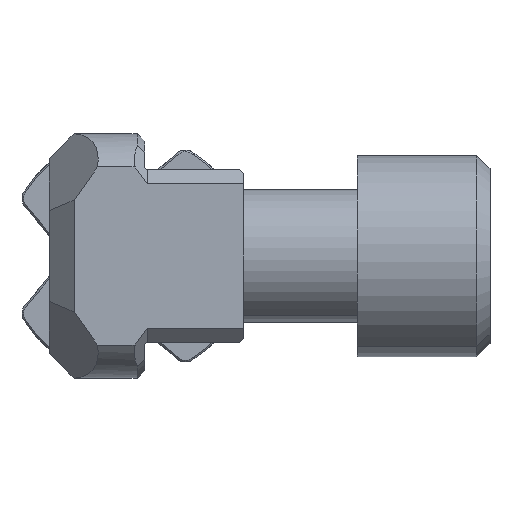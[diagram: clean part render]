
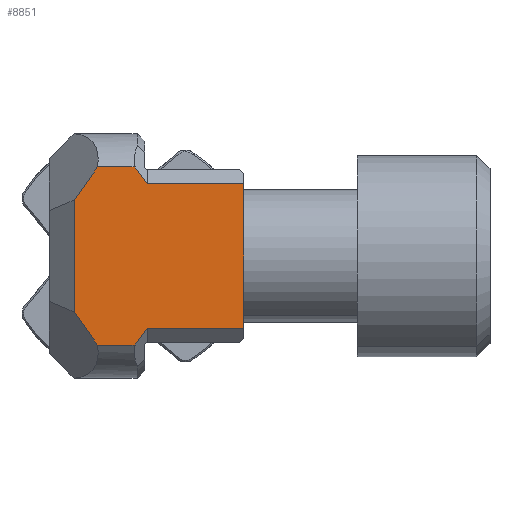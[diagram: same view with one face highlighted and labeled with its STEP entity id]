
A CAD part, front view. The second image highlights one B-rep face of the part: STEP entity #8851.
In plain terms, the highlighted planar face has unit normal (0, -1, 0).
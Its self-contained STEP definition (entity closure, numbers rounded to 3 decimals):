
#63 = CARTESIAN_POINT ( 'NONE',  ( -5.67, 0., -10.745 ) ) ;
#351 = ORIENTED_EDGE ( 'NONE', *, *, #13432, .F. ) ;
#382 = DIRECTION ( 'NONE',  ( 0.577, 0., -0.816 ) ) ;
#568 = DIRECTION ( 'NONE',  ( 0.577, 0., 0.816 ) ) ;
#634 = VECTOR ( 'NONE', #7683, 1000. ) ;
#787 = VERTEX_POINT ( 'NONE', #5525 ) ;
#1362 = EDGE_CURVE ( 'NONE', #15745, #8325, #9780, .T. ) ;
#1699 = DIRECTION ( 'NONE',  ( 0., 0., 1. ) ) ;
#1803 = CARTESIAN_POINT ( 'NONE',  ( -8.5, 0., -10.7 ) ) ;
#2336 = CARTESIAN_POINT ( 'NONE',  ( 0.3, 0., -8.7 ) ) ;
#2354 = DIRECTION ( 'NONE',  ( -1., 0., 0. ) ) ;
#3033 = CARTESIAN_POINT ( 'NONE',  ( 12., 0., 8.7 ) ) ;
#3056 = ORIENTED_EDGE ( 'NONE', *, *, #18273, .F. ) ;
#3454 = ORIENTED_EDGE ( 'NONE', *, *, #7697, .F. ) ;
#3564 = EDGE_LOOP ( 'NONE', ( #3056, #17486, #9317, #3454, #11464, #10012, #9542, #351, #14204, #14053 ) ) ;
#3605 = DIRECTION ( 'NONE',  ( -1., 0., 0. ) ) ;
#3820 = LINE ( 'NONE', #10150, #15825 ) ;
#4193 = FACE_OUTER_BOUND ( 'NONE', #3564, .T. ) ;
#4388 = PLANE ( 'NONE',  #19550 ) ;
#4895 = LINE ( 'NONE', #17391, #9037 ) ;
#5525 = CARTESIAN_POINT ( 'NONE',  ( 0.3, 0., 8.7 ) ) ;
#6046 = VERTEX_POINT ( 'NONE', #14889 ) ;
#6242 = VECTOR ( 'NONE', #17535, 1000. ) ;
#6246 = CARTESIAN_POINT ( 'NONE',  ( 12., 0., -10.5 ) ) ;
#6912 = LINE ( 'NONE', #10234, #14239 ) ;
#7683 = DIRECTION ( 'NONE',  ( 1., 0., 0. ) ) ;
#7697 = EDGE_CURVE ( 'NONE', #8325, #18635, #19416, .T. ) ;
#7914 = VERTEX_POINT ( 'NONE', #13268 ) ;
#8084 = VECTOR ( 'NONE', #17690, 1000. ) ;
#8237 = VECTOR ( 'NONE', #3605, 1000. ) ;
#8325 = VERTEX_POINT ( 'NONE', #17829 ) ;
#8726 = VECTOR ( 'NONE', #382, 1000. ) ;
#8851 = ADVANCED_FACE ( 'NONE', ( #4193 ), #4388, .F. ) ;
#9037 = VECTOR ( 'NONE', #9586, 1000. ) ;
#9227 = EDGE_CURVE ( 'NONE', #14927, #17257, #4895, .T. ) ;
#9317 = ORIENTED_EDGE ( 'NONE', *, *, #18623, .T. ) ;
#9542 = ORIENTED_EDGE ( 'NONE', *, *, #9727, .F. ) ;
#9586 = DIRECTION ( 'NONE',  ( -0.577, 0., -0.816 ) ) ;
#9727 = EDGE_CURVE ( 'NONE', #6046, #787, #13065, .T. ) ;
#9780 = LINE ( 'NONE', #6246, #8084 ) ;
#10012 = ORIENTED_EDGE ( 'NONE', *, *, #11367, .T. ) ;
#10150 = CARTESIAN_POINT ( 'NONE',  ( 12., 0., 8.7 ) ) ;
#10234 = CARTESIAN_POINT ( 'NONE',  ( -0.676, 0., -10.08 ) ) ;
#10435 = LINE ( 'NONE', #18342, #16484 ) ;
#10722 = DIRECTION ( 'NONE',  ( 0., 0., 1. ) ) ;
#11085 = CARTESIAN_POINT ( 'NONE',  ( 12., 0., -8.7 ) ) ;
#11367 = EDGE_CURVE ( 'NONE', #15745, #787, #3820, .T. ) ;
#11464 = ORIENTED_EDGE ( 'NONE', *, *, #1362, .F. ) ;
#12193 = DIRECTION ( 'NONE',  ( 0., 1., 0. ) ) ;
#12294 = CARTESIAN_POINT ( 'NONE',  ( 0.2, 0., -10.7 ) ) ;
#12510 = LINE ( 'NONE', #1803, #12924 ) ;
#12924 = VECTOR ( 'NONE', #1699, 1000. ) ;
#13065 = LINE ( 'NONE', #16002, #8726 ) ;
#13268 = CARTESIAN_POINT ( 'NONE',  ( -8.5, 0., -6.743 ) ) ;
#13432 = EDGE_CURVE ( 'NONE', #14927, #6046, #10435, .T. ) ;
#13822 = LINE ( 'NONE', #20475, #634 ) ;
#14053 = ORIENTED_EDGE ( 'NONE', *, *, #19103, .F. ) ;
#14204 = ORIENTED_EDGE ( 'NONE', *, *, #9227, .T. ) ;
#14239 = VECTOR ( 'NONE', #568, 1000. ) ;
#14647 = VERTEX_POINT ( 'NONE', #17361 ) ;
#14889 = CARTESIAN_POINT ( 'NONE',  ( -1.146, 0., 10.745 ) ) ;
#14927 = VERTEX_POINT ( 'NONE', #20227 ) ;
#15340 = DIRECTION ( 'NONE',  ( 1., 0., 0. ) ) ;
#15745 = VERTEX_POINT ( 'NONE', #3033 ) ;
#15825 = VECTOR ( 'NONE', #2354, 1000. ) ;
#16002 = CARTESIAN_POINT ( 'NONE',  ( -0.676, 0., 10.08 ) ) ;
#16484 = VECTOR ( 'NONE', #15340, 1000. ) ;
#17247 = EDGE_CURVE ( 'NONE', #18364, #14647, #13822, .T. ) ;
#17257 = VERTEX_POINT ( 'NONE', #18498 ) ;
#17361 = CARTESIAN_POINT ( 'NONE',  ( -1.146, 0., -10.745 ) ) ;
#17391 = CARTESIAN_POINT ( 'NONE',  ( -3.734, 0., 13.482 ) ) ;
#17486 = ORIENTED_EDGE ( 'NONE', *, *, #17247, .T. ) ;
#17535 = DIRECTION ( 'NONE',  ( -0.577, 0., 0.816 ) ) ;
#17690 = DIRECTION ( 'NONE',  ( 0., 0., -1. ) ) ;
#17829 = CARTESIAN_POINT ( 'NONE',  ( 12., 0., -8.7 ) ) ;
#18273 = EDGE_CURVE ( 'NONE', #18364, #7914, #18895, .T. ) ;
#18342 = CARTESIAN_POINT ( 'NONE',  ( -11.5, 0., 10.745 ) ) ;
#18364 = VERTEX_POINT ( 'NONE', #63 ) ;
#18498 = CARTESIAN_POINT ( 'NONE',  ( -8.5, 0., 6.743 ) ) ;
#18623 = EDGE_CURVE ( 'NONE', #14647, #18635, #6912, .T. ) ;
#18635 = VERTEX_POINT ( 'NONE', #2336 ) ;
#18895 = LINE ( 'NONE', #18997, #6242 ) ;
#18997 = CARTESIAN_POINT ( 'NONE',  ( -3.734, 0., -13.482 ) ) ;
#19103 = EDGE_CURVE ( 'NONE', #7914, #17257, #12510, .T. ) ;
#19416 = LINE ( 'NONE', #11085, #8237 ) ;
#19550 = AXIS2_PLACEMENT_3D ( 'NONE', #12294, #12193, #10722 ) ;
#20227 = CARTESIAN_POINT ( 'NONE',  ( -5.67, 0., 10.745 ) ) ;
#20475 = CARTESIAN_POINT ( 'NONE',  ( -11.5, 0., -10.745 ) ) ;
